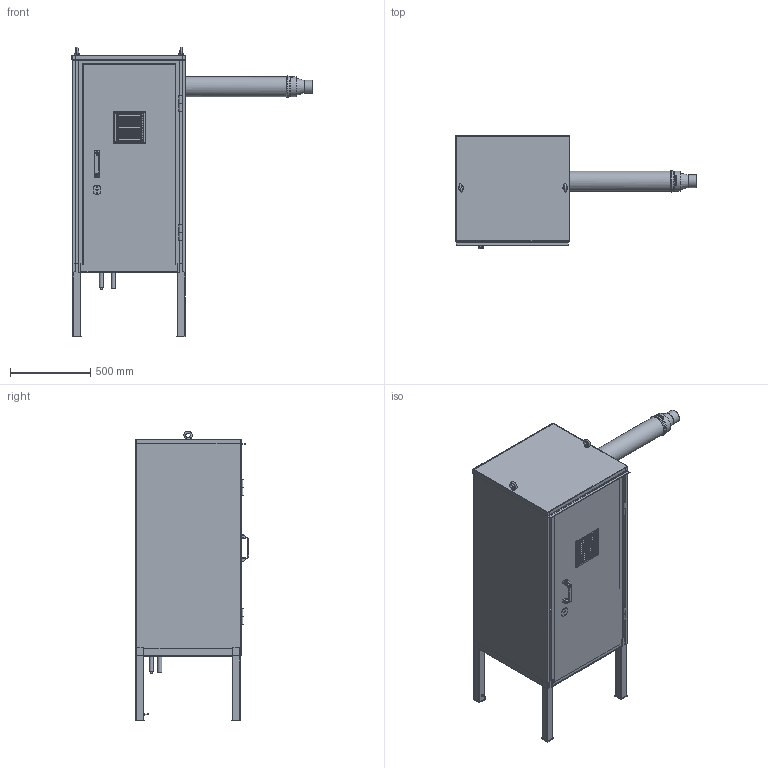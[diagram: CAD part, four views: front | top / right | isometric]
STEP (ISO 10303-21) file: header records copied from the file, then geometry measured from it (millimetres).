
FILE_DESCRIPTION(('STEP AP214'), '1');
FILE_NAME('VSB70.00.000 - Îáîëî÷êà', '', ('UNSPECIFIED'), ('UNSPECIFIED'), 'C3D Converter', 'C3D Toolkit', '');
FILE_SCHEMA(('AUTOMOTIVE_DESIGN { 1 0 10303 214 3 1 1}'));
Length unit declared in the file: millimetre
Products named in the file (1): VSB70.00.000
Bounding box: 1497.25 x 708 x 1805.87 mm (x, y, z)
Volume: 52774918.7 mm3; surface area: 14081011.6 mm2
Topology: 8 solids, 8 shells, 1378 faces, 3606 edges, 2139 vertices
Faces by surface type: plane 735, cylinder 362, torus 137, sphere 96, bspline 30, cone 18
Full cylindrical faces by diameter (mm): 4 x8, 5 x2, 6 x2, 6.2 x2, 8 x3, 10 x1, 10.106 x2, 13 x2, 14 x3, 18 x1, 21.2 x1, 26 x2, 26.441 x2, 76 x1, 80 x1, 100 x1, 124 x3, 125 x2
Entity records: 57474 total; most frequent: CARTESIAN_POINT 18754, DIRECTION 7013, ORIENTED_EDGE 6880, EDGE_CURVE 3440, AXIS2_PLACEMENT_3D 2600, VERTEX_POINT 2137, LINE 1813, VECTOR 1813
